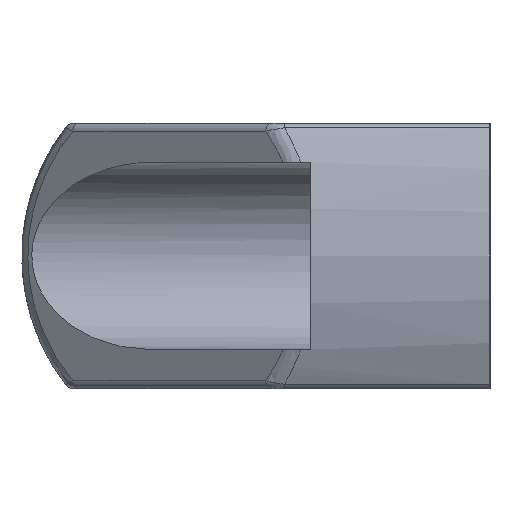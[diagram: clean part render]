
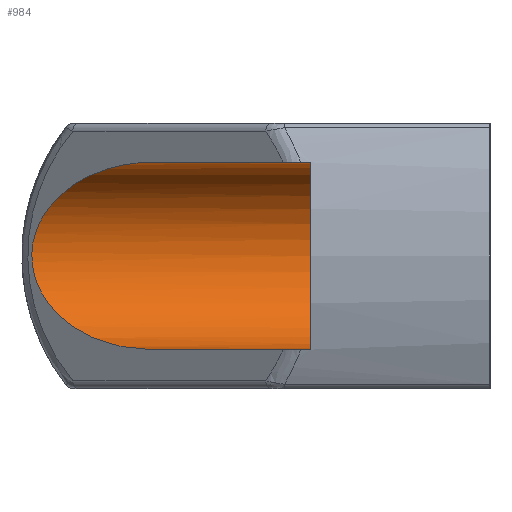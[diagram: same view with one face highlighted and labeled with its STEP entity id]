
A CAD part, left-side view. The second image highlights one B-rep face of the part: STEP entity #984.
In plain terms, the highlighted cylindrical face has radius 6 mm (diameter 12 mm), a partial arc.
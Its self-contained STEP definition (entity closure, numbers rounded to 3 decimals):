
#20=ELLIPSE('',#1066,9.726,6.);
#133=LINE('',#2041,#191);
#134=LINE('',#2043,#192);
#191=VECTOR('',#1364,10.207);
#192=VECTOR('',#1367,10.207);
#221=CYLINDRICAL_SURFACE('',#1098,6.);
#284=FACE_OUTER_BOUND('',#349,.T.);
#349=EDGE_LOOP('',(#902,#903,#904,#905));
#359=CIRCLE('',#998,6.);
#411=VERTEX_POINT('',#1399);
#412=VERTEX_POINT('',#1400);
#471=VERTEX_POINT('',#1714);
#472=VERTEX_POINT('',#1716);
#499=EDGE_CURVE('',#411,#412,#359,.T.);
#587=EDGE_CURVE('',#471,#472,#20,.T.);
#632=EDGE_CURVE('',#471,#412,#133,.T.);
#633=EDGE_CURVE('',#472,#411,#134,.T.);
#902=ORIENTED_EDGE('',*,*,#587,.F.);
#903=ORIENTED_EDGE('',*,*,#632,.T.);
#904=ORIENTED_EDGE('',*,*,#499,.F.);
#905=ORIENTED_EDGE('',*,*,#633,.F.);
#984=ADVANCED_FACE('',(#284),#221,.F.);
#998=AXIS2_PLACEMENT_3D('',#1401,#1119,#1120);
#1066=AXIS2_PLACEMENT_3D('',#1717,#1291,#1292);
#1098=AXIS2_PLACEMENT_3D('',#2051,#1377,#1378);
#1119=DIRECTION('center_axis',(0.,1.,0.));
#1120=DIRECTION('ref_axis',(0.,0.,1.));
#1291=DIRECTION('center_axis',(0.787,-0.617,0.));
#1292=DIRECTION('ref_axis',(0.617,0.787,0.));
#1364=DIRECTION('',(0.,-1.,0.));
#1367=DIRECTION('',(0.,-1.,0.));
#1377=DIRECTION('center_axis',(0.,1.,0.));
#1378=DIRECTION('ref_axis',(0.,0.,1.));
#1399=CARTESIAN_POINT('',(8.,11.5,6.));
#1400=CARTESIAN_POINT('',(8.,11.5,-6.));
#1401=CARTESIAN_POINT('Origin',(8.,11.5,0.));
#1714=CARTESIAN_POINT('',(8.,21.707,-6.));
#1716=CARTESIAN_POINT('',(8.,21.707,6.));
#1717=CARTESIAN_POINT('Origin',(8.,21.707,0.));
#2041=CARTESIAN_POINT('',(8.,31.,-6.));
#2043=CARTESIAN_POINT('',(8.,31.,6.));
#2051=CARTESIAN_POINT('Origin',(8.,31.,0.));
